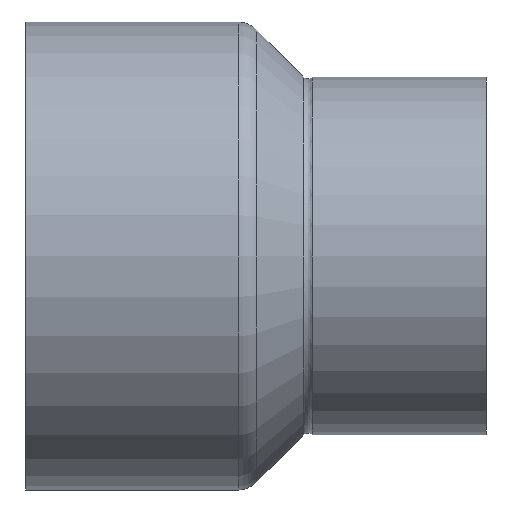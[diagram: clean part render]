
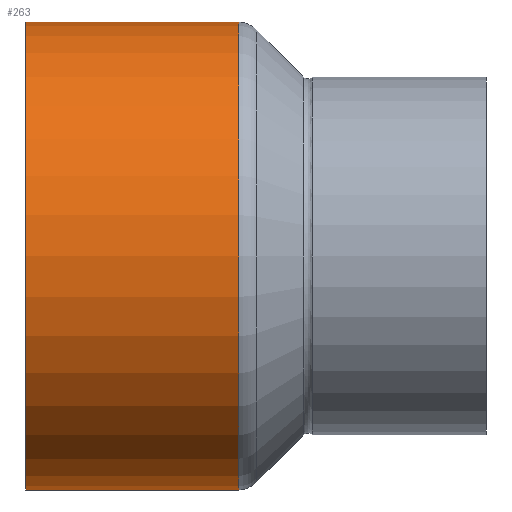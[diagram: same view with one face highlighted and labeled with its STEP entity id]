
A CAD part, front view. The second image highlights one B-rep face of the part: STEP entity #263.
In plain terms, the highlighted cylindrical face has radius 44.45 mm (diameter 88.9 mm), a full revolution.
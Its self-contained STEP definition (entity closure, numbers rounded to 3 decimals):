
#229=CARTESIAN_POINT('',(7.501,44.45,0.0));
#230=VERTEX_POINT('',#229);
#231=CARTESIAN_POINT('',(7.501,0.0,0.0));
#232=DIRECTION('',(1.0,0.0,0.0));
#233=DIRECTION('',(0.0,1.0,0.0));
#234=AXIS2_PLACEMENT_3D('',#231,#232,#233);
#235=CIRCLE('',#234,44.45);
#236=EDGE_CURVE('',#230,#230,#235,.T.);
#244=CARTESIAN_POINT('',(27.751,0.0,0.0));
#245=DIRECTION('',(1.0,0.0,0.0));
#246=DIRECTION('',(0.0,1.0,0.0));
#247=AXIS2_PLACEMENT_3D('',#244,#245,#246);
#248=CYLINDRICAL_SURFACE('',#247,44.45);
#249=CARTESIAN_POINT('',(48.001,44.45,0.0));
#250=VERTEX_POINT('',#249);
#251=CARTESIAN_POINT('',(48.001,0.0,0.0));
#252=DIRECTION('',(1.0,0.0,0.0));
#253=DIRECTION('',(0.0,1.0,0.0));
#254=AXIS2_PLACEMENT_3D('',#251,#252,#253);
#255=CIRCLE('',#254,44.45);
#256=EDGE_CURVE('',#250,#250,#255,.T.);
#257=ORIENTED_EDGE('',*,*,#256,.F.);
#258=EDGE_LOOP('',(#257));
#259=FACE_OUTER_BOUND('',#258,.T.);
#260=ORIENTED_EDGE('',*,*,#236,.T.);
#261=EDGE_LOOP('',(#260));
#262=FACE_BOUND('',#261,.T.);
#263=ADVANCED_FACE('',(#259,#262),#248,.T.);
